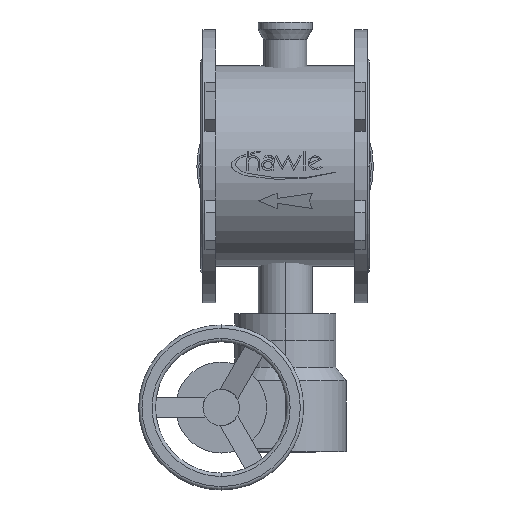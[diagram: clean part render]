
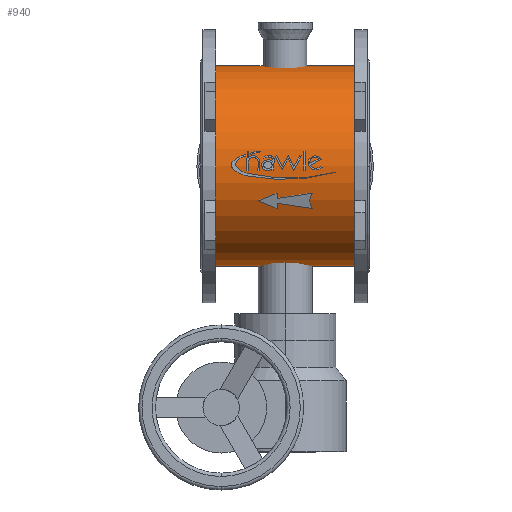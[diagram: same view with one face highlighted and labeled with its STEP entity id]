
A CAD part, top view. The second image highlights one B-rep face of the part: STEP entity #940.
In plain terms, the highlighted cylindrical face has radius 149 mm (diameter 298 mm), a partial arc.
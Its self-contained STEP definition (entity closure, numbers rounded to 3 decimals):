
#940=ADVANCED_FACE('',(#2006),#2007,.T.);
#2006=FACE_OUTER_BOUND('',#3602,.T.);
#2007=CYLINDRICAL_SURFACE('',#3603,149.0);
#3602=EDGE_LOOP('',(#5058,#5059,#5060,#5061));
#3603=AXIS2_PLACEMENT_3D('',#5062,#5063,#5064);
#5058=ORIENTED_EDGE('',*,*,#8393,.T.);
#5059=ORIENTED_EDGE('',*,*,#8394,.T.);
#5060=ORIENTED_EDGE('',*,*,#8395,.T.);
#5061=ORIENTED_EDGE('',*,*,#8377,.T.);
#5062=CARTESIAN_POINT('',(-228.0,0.,0.0));
#5063=DIRECTION('',(1.0,0.,0.0));
#5064=DIRECTION('',(0.,-1.0,0.0));
#8377=EDGE_CURVE('',#9811,#9810,#9813,.T.);
#8393=EDGE_CURVE('',#9810,#9839,#9840,.T.);
#8394=EDGE_CURVE('',#9839,#9841,#9842,.T.);
#8395=EDGE_CURVE('',#9841,#9811,#9843,.T.);
#9810=VERTEX_POINT('',#11792);
#9811=VERTEX_POINT('',#11793);
#9813=CIRCLE('',#11795,149.0);
#9839=VERTEX_POINT('',#11825);
#9840=LINE('',#11826,#11827);
#9841=VERTEX_POINT('',#11828);
#9842=CIRCLE('',#11829,149.0);
#9843=LINE('',#11830,#11831);
#11792=CARTESIAN_POINT('',(-228.0,-149.0,0.0));
#11793=CARTESIAN_POINT('',(-228.0,149.0,0.));
#11795=AXIS2_PLACEMENT_3D('',#14278,#14279,#14280);
#11825=CARTESIAN_POINT('',(-22.0,-149.0,0.0));
#11826=CARTESIAN_POINT('',(-228.0,-149.0,0.));
#11827=VECTOR('',#14303,1.0);
#11828=CARTESIAN_POINT('',(-22.0,149.0,0.));
#11829=AXIS2_PLACEMENT_3D('',#14304,#14305,#14306);
#11830=CARTESIAN_POINT('',(-228.0,149.0,0.));
#11831=VECTOR('',#14307,1.0);
#14278=CARTESIAN_POINT('',(-228.0,0.,0.0));
#14279=DIRECTION('',(1.0,0.,0.0));
#14280=DIRECTION('',(0.,-1.0,0.0));
#14303=DIRECTION('',(1.0,0.,0.0));
#14304=CARTESIAN_POINT('',(-22.0,0.,0.0));
#14305=DIRECTION('',(-1.0,0.,0.0));
#14306=DIRECTION('',(0.,-1.0,0.0));
#14307=DIRECTION('',(-1.0,0.,-0.0));
